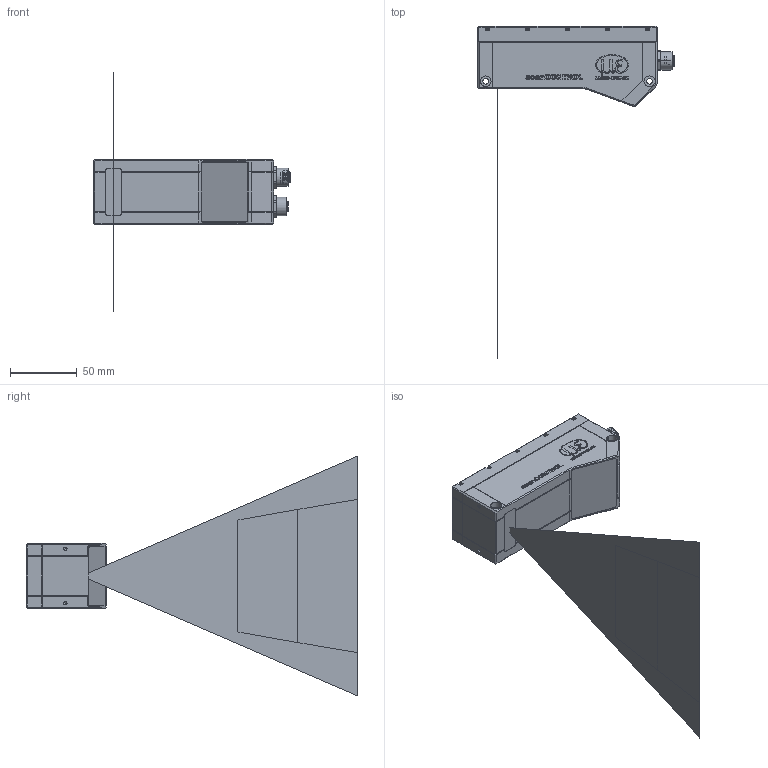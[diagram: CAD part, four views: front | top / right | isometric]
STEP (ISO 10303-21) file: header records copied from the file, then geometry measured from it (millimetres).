
FILE_DESCRIPTION (( 'STEP AP214' ), '1' );
FILE_NAME ('LLT8500-MB100_mit Messbereichsfeld.step', '2025-04-16T07:09:47', ( '' ), ( '' ), 'SwSTEP 2.0', 'SolidWorks 2022', '' );
FILE_SCHEMA (( 'AUTOMOTIVE_DESIGN' ));
Length unit declared in the file: millimetre
Products named in the file (1): LLT8500-MB100_mit Messbereichsfeld
Bounding box: 147.6 x 249 x 180 mm (x, y, z)
Volume: 323868 mm3; surface area: 74106.5 mm2
Topology: 2 solids, 15 shells, 2719 faces, 7055 edges, 4548 vertices
Faces by surface type: plane 1368, bspline 731, cylinder 382, cone 174, torus 64
Full cylindrical faces by diameter (mm): 0.72 x19, 1.6 x4, 2.2 x15, 2.5 x2, 2.921 x10, 3 x14, 4.2 x2, 8 x2, 17 x2
Entity records: 134816 total; most frequent: CARTESIAN_POINT 44410, ORIENTED_EDGE 13622, DIRECTION 10166, EDGE_CURVE 6811, VERTEX_POINT 4468, VECTOR 4026, LINE 4026, AXIS2_PLACEMENT_3D 3070
